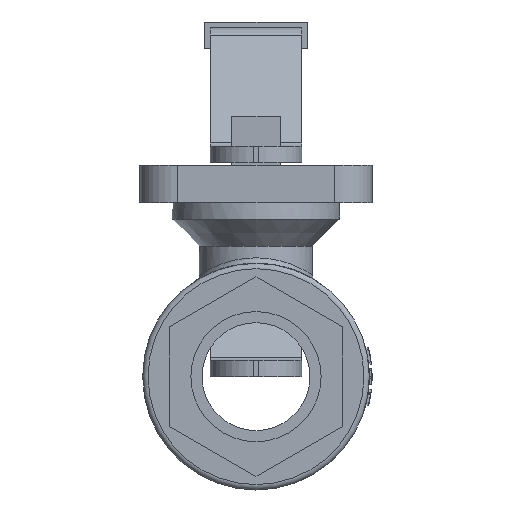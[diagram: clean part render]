
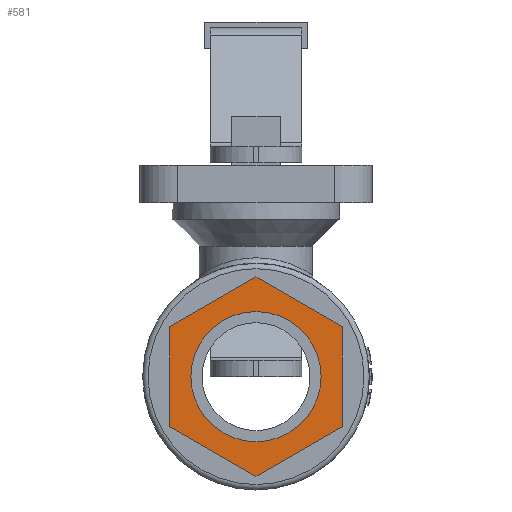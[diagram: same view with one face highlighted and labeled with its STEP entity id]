
A CAD part, left-side view. The second image highlights one B-rep face of the part: STEP entity #581.
In plain terms, the highlighted planar face has unit normal (-1, 0, 0).
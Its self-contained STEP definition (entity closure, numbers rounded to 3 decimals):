
#581 = ADVANCED_FACE( '', ( #1227, #1228 ), #1229, .T. );
#1227 = FACE_BOUND( '', #3381, .T. );
#1228 = FACE_OUTER_BOUND( '', #3382, .T. );
#1229 = PLANE( '', #3383 );
#3381 = EDGE_LOOP( '', ( #5519 ) );
#3382 = EDGE_LOOP( '', ( #5520, #5521, #5522, #5523, #5524, #5525 ) );
#3383 = AXIS2_PLACEMENT_3D( '', #5526, #5527, #5528 );
#5519 = ORIENTED_EDGE( '', *, *, #6281, .T. );
#5520 = ORIENTED_EDGE( '', *, *, #6463, .T. );
#5521 = ORIENTED_EDGE( '', *, *, #6292, .T. );
#5522 = ORIENTED_EDGE( '', *, *, #6036, .T. );
#5523 = ORIENTED_EDGE( '', *, *, #6156, .T. );
#5524 = ORIENTED_EDGE( '', *, *, #6456, .T. );
#5525 = ORIENTED_EDGE( '', *, *, #5916, .T. );
#5526 = CARTESIAN_POINT( '', ( -32.8, 0., 0. ) );
#5527 = DIRECTION( '', ( -1., 0., 0. ) );
#5528 = DIRECTION( '', ( 0., -1., 0. ) );
#5916 = EDGE_CURVE( '', #6702, #6703, #6704, .T. );
#6036 = EDGE_CURVE( '', #6904, #6905, #6906, .T. );
#6156 = EDGE_CURVE( '', #6905, #7092, #7093, .T. );
#6281 = EDGE_CURVE( '', #7266, #7266, #7267, .T. );
#6292 = EDGE_CURVE( '', #7280, #6904, #7281, .T. );
#6456 = EDGE_CURVE( '', #7092, #6702, #7481, .T. );
#6463 = EDGE_CURVE( '', #6703, #7280, #7489, .T. );
#6702 = VERTEX_POINT( '', #8795 );
#6703 = VERTEX_POINT( '', #8796 );
#6704 = LINE( '', #8797, #8798 );
#6904 = VERTEX_POINT( '', #9407 );
#6905 = VERTEX_POINT( '', #9408 );
#6906 = LINE( '', #9409, #9410 );
#7092 = VERTEX_POINT( '', #9959 );
#7093 = LINE( '', #9960, #9961 );
#7266 = VERTEX_POINT( '', #10518 );
#7267 = CIRCLE( '', #10519, 12.059 );
#7280 = VERTEX_POINT( '', #10535 );
#7281 = LINE( '', #10536, #10537 );
#7481 = LINE( '', #11231, #11232 );
#7489 = LINE( '', #11251, #11252 );
#8795 = CARTESIAN_POINT( '', ( -32.8, 0., -18.475 ) );
#8796 = CARTESIAN_POINT( '', ( -32.8, -16., -9.238 ) );
#8797 = CARTESIAN_POINT( '', ( -32.8, 0., -18.475 ) );
#8798 = VECTOR( '', #11360, 1000. );
#9407 = CARTESIAN_POINT( '', ( -32.8, 0., 18.475 ) );
#9408 = CARTESIAN_POINT( '', ( -32.8, 16., 9.238 ) );
#9409 = CARTESIAN_POINT( '', ( -32.8, 0., 18.475 ) );
#9410 = VECTOR( '', #11446, 1000. );
#9959 = CARTESIAN_POINT( '', ( -32.8, 16., -9.238 ) );
#9960 = CARTESIAN_POINT( '', ( -32.8, 16., 9.238 ) );
#9961 = VECTOR( '', #11507, 1000. );
#10518 = CARTESIAN_POINT( '', ( -32.8, 0., 12.059 ) );
#10519 = AXIS2_PLACEMENT_3D( '', #11613, #11614, #11615 );
#10535 = CARTESIAN_POINT( '', ( -32.8, -16., 9.238 ) );
#10536 = CARTESIAN_POINT( '', ( -32.8, -16., 9.238 ) );
#10537 = VECTOR( '', #11622, 1000. );
#11231 = CARTESIAN_POINT( '', ( -32.8, 16., -9.238 ) );
#11232 = VECTOR( '', #11684, 1000. );
#11251 = CARTESIAN_POINT( '', ( -32.8, -16., -9.238 ) );
#11252 = VECTOR( '', #11685, 1000. );
#11360 = DIRECTION( '', ( 0., -0.866, 0.5 ) );
#11446 = DIRECTION( '', ( 0., 0.866, -0.5 ) );
#11507 = DIRECTION( '', ( 0., 0., -1. ) );
#11613 = CARTESIAN_POINT( '', ( -32.8, 0., 0. ) );
#11614 = DIRECTION( '', ( 1., 0., 0. ) );
#11615 = DIRECTION( '', ( 0., 0., 1. ) );
#11622 = DIRECTION( '', ( 0., 0.866, 0.5 ) );
#11684 = DIRECTION( '', ( 0., -0.866, -0.5 ) );
#11685 = DIRECTION( '', ( 0., 0., 1. ) );
